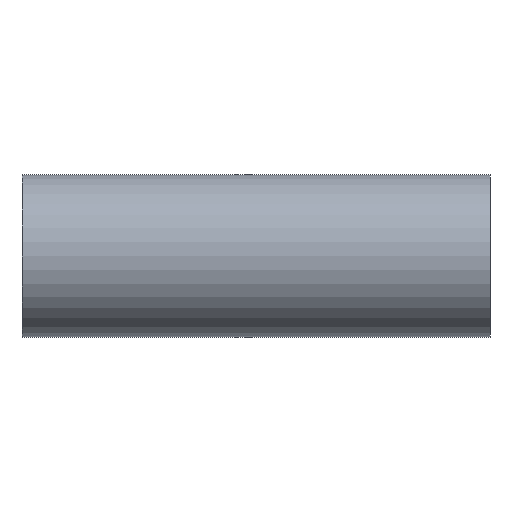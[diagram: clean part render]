
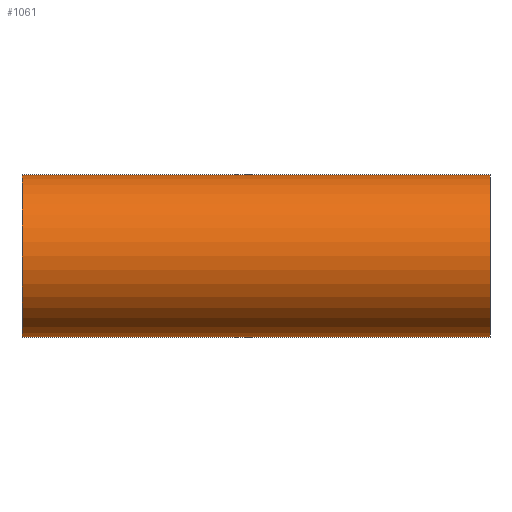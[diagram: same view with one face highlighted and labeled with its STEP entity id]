
A CAD part, front view. The second image highlights one B-rep face of the part: STEP entity #1061.
In plain terms, the highlighted cylindrical face has radius 25.4 mm (diameter 50.8 mm), a partial arc.
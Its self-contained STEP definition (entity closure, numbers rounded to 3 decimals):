
#8 = VECTOR ( 'NONE', #824, 1000. ) ;
#29 = EDGE_LOOP ( 'NONE', ( #1181, #1149, #267, #1162 ) ) ;
#52 = AXIS2_PLACEMENT_3D ( 'NONE', #901, #1243, #919 ) ;
#70 = LINE ( 'NONE', #434, #8 ) ;
#139 = VERTEX_POINT ( 'NONE', #1281 ) ;
#140 = EDGE_CURVE ( 'NONE', #139, #1172, #70, .T. ) ;
#155 = DIRECTION ( 'NONE',  ( 1., 0., 0. ) ) ;
#240 = FACE_OUTER_BOUND ( 'NONE', #29, .T. ) ;
#267 = ORIENTED_EDGE ( 'NONE', *, *, #1150, .T. ) ;
#282 = CYLINDRICAL_SURFACE ( 'NONE', #52, 25.4 ) ;
#307 = CARTESIAN_POINT ( 'NONE',  ( 73., 0., -25.4 ) ) ;
#334 = VERTEX_POINT ( 'NONE', #1002 ) ;
#434 = CARTESIAN_POINT ( 'NONE',  ( -73., 0., 25.4 ) ) ;
#494 = DIRECTION ( 'NONE',  ( 0., 0., -1. ) ) ;
#496 = DIRECTION ( 'NONE',  ( -1., 0., 0. ) ) ;
#500 = CARTESIAN_POINT ( 'NONE',  ( 73., 0., 0. ) ) ;
#517 = EDGE_CURVE ( 'NONE', #535, #1172, #577, .T. ) ;
#535 = VERTEX_POINT ( 'NONE', #307 ) ;
#577 = CIRCLE ( 'NONE', #671, 25.4 ) ;
#613 = CARTESIAN_POINT ( 'NONE',  ( -73., 0., -25.4 ) ) ;
#671 = AXIS2_PLACEMENT_3D ( 'NONE', #500, #496, #494 ) ;
#824 = DIRECTION ( 'NONE',  ( 1., 0., 0. ) ) ;
#901 = CARTESIAN_POINT ( 'NONE',  ( -73., 0., 0. ) ) ;
#917 = CIRCLE ( 'NONE', #1287, 25.4 ) ;
#919 = DIRECTION ( 'NONE',  ( 0., 0., -1. ) ) ;
#1002 = CARTESIAN_POINT ( 'NONE',  ( -73., 0., -25.4 ) ) ;
#1061 = ADVANCED_FACE ( 'NONE', ( #240 ), #282, .T. ) ;
#1149 = ORIENTED_EDGE ( 'NONE', *, *, #1226, .T. ) ;
#1150 = EDGE_CURVE ( 'NONE', #334, #535, #1224, .T. ) ;
#1162 = ORIENTED_EDGE ( 'NONE', *, *, #517, .T. ) ;
#1172 = VERTEX_POINT ( 'NONE', #1193 ) ;
#1174 = CARTESIAN_POINT ( 'NONE',  ( -73., 0., 0. ) ) ;
#1179 = DIRECTION ( 'NONE',  ( 1., 0., 0. ) ) ;
#1181 = ORIENTED_EDGE ( 'NONE', *, *, #140, .F. ) ;
#1193 = CARTESIAN_POINT ( 'NONE',  ( 73., 0., 25.4 ) ) ;
#1224 = LINE ( 'NONE', #613, #1280 ) ;
#1226 = EDGE_CURVE ( 'NONE', #139, #334, #917, .T. ) ;
#1243 = DIRECTION ( 'NONE',  ( 1., 0., 0. ) ) ;
#1280 = VECTOR ( 'NONE', #155, 1000. ) ;
#1281 = CARTESIAN_POINT ( 'NONE',  ( -73., 0., 25.4 ) ) ;
#1287 = AXIS2_PLACEMENT_3D ( 'NONE', #1174, #1179, #1306 ) ;
#1306 = DIRECTION ( 'NONE',  ( 0., 0., -1. ) ) ;
